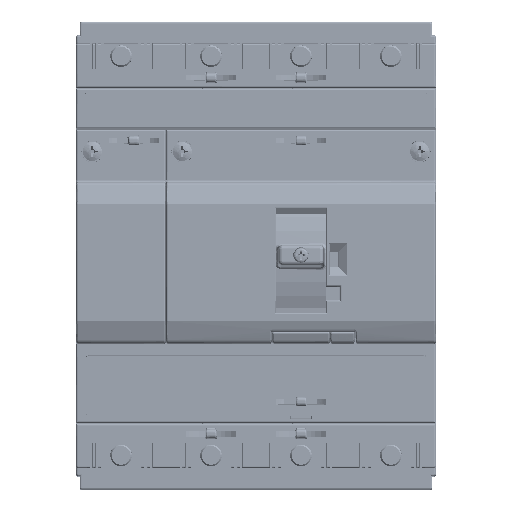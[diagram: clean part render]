
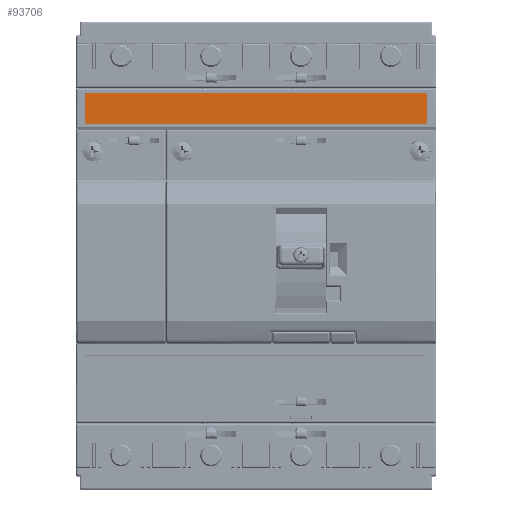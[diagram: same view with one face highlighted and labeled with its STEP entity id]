
A CAD part, top view. The second image highlights one B-rep face of the part: STEP entity #93706.
In plain terms, the highlighted planar face has unit normal (0, 0, 1).
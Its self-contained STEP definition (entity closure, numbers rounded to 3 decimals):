
#32029 = FACE_OUTER_BOUND ( 'NONE', #268607, .T. ) ;
#32032 = PLANE ( 'NONE',  #41921 ) ;
#32070 = CARTESIAN_POINT ( 'NONE',  ( -34.7, 44.9, 69.7 ) ) ;
#32073 = DIRECTION ( 'NONE',  ( 0., 0., -1. ) ) ;
#32075 = DIRECTION ( 'NONE',  ( -1., 0., 0. ) ) ;
#32903 = CARTESIAN_POINT ( 'NONE',  ( -60., 36.96, 69.7 ) ) ;
#32907 = CARTESIAN_POINT ( 'NONE',  ( -60., 37., 69.7 ) ) ;
#32950 = CARTESIAN_POINT ( 'NONE',  ( 35., 37., 69.7 ) ) ;
#32955 = LINE ( 'NONE', #32989, #260381 ) ;
#32960 = CARTESIAN_POINT ( 'NONE',  ( 35., 36.921, 69.7 ) ) ;
#32965 = CARTESIAN_POINT ( 'NONE',  ( -59.992, 36.922, 69.7 ) ) ;
#32969 = CARTESIAN_POINT ( 'NONE',  ( -59.964, 36.852, 69.7 ) ) ;
#32973 = CARTESIAN_POINT ( 'NONE',  ( -59.941, 36.817, 69.7 ) ) ;
#32977 = CARTESIAN_POINT ( 'NONE',  ( -59.854, 36.73, 69.7 ) ) ;
#32981 = CARTESIAN_POINT ( 'NONE',  ( -59.783, 36.701, 69.7 ) ) ;
#32986 = CARTESIAN_POINT ( 'NONE',  ( -59.7, 36.7, 69.7 ) ) ;
#32989 = CARTESIAN_POINT ( 'NONE',  ( -34.7, 36.7, 69.7 ) ) ;
#32999 = DIRECTION ( 'NONE',  ( 1., 0., 0. ) ) ;
#33003 = CARTESIAN_POINT ( 'NONE',  ( 35., 44.9, 69.7 ) ) ;
#33006 = LINE ( 'NONE', #33034, #260403 ) ;
#33010 = CARTESIAN_POINT ( 'NONE',  ( 35., 44.94, 69.7 ) ) ;
#33015 = CARTESIAN_POINT ( 'NONE',  ( 34.968, 36.843, 69.7 ) ) ;
#33020 = CARTESIAN_POINT ( 'NONE',  ( 34.857, 36.732, 69.7 ) ) ;
#33024 = CARTESIAN_POINT ( 'NONE',  ( 34.779, 36.7, 69.7 ) ) ;
#33029 = CARTESIAN_POINT ( 'NONE',  ( 34.7, 36.7, 69.7 ) ) ;
#33034 = CARTESIAN_POINT ( 'NONE',  ( 35., 44.9, 69.7 ) ) ;
#33046 = DIRECTION ( 'NONE',  ( 0., 1., 0. ) ) ;
#33055 = CARTESIAN_POINT ( 'NONE',  ( -59.74, 45.2, 69.7 ) ) ;
#33059 = CARTESIAN_POINT ( 'NONE',  ( -59.7, 45.2, 69.7 ) ) ;
#33063 = CARTESIAN_POINT ( 'NONE',  ( 34.992, 44.978, 69.7 ) ) ;
#33067 = CARTESIAN_POINT ( 'NONE',  ( 34.964, 45.048, 69.7 ) ) ;
#33068 = CARTESIAN_POINT ( 'NONE',  ( 34.941, 45.083, 69.7 ) ) ;
#33071 = CARTESIAN_POINT ( 'NONE',  ( 34.854, 45.17, 69.7 ) ) ;
#33075 = CARTESIAN_POINT ( 'NONE',  ( 34.783, 45.199, 69.7 ) ) ;
#33080 = CARTESIAN_POINT ( 'NONE',  ( 34.7, 45.2, 69.7 ) ) ;
#33082 = LINE ( 'NONE', #33087, #260407 ) ;
#33087 = CARTESIAN_POINT ( 'NONE',  ( -34.7, 45.2, 69.7 ) ) ;
#33091 = DIRECTION ( 'NONE',  ( -1., 0., 0. ) ) ;
#33106 = CARTESIAN_POINT ( 'NONE',  ( -59.778, 45.192, 69.7 ) ) ;
#33110 = CARTESIAN_POINT ( 'NONE',  ( -59.848, 45.164, 69.7 ) ) ;
#33115 = CARTESIAN_POINT ( 'NONE',  ( -59.883, 45.141, 69.7 ) ) ;
#33120 = CARTESIAN_POINT ( 'NONE',  ( -59.97, 45.054, 69.7 ) ) ;
#33125 = CARTESIAN_POINT ( 'NONE',  ( -59.999, 44.983, 69.7 ) ) ;
#33129 = CARTESIAN_POINT ( 'NONE',  ( -60., 44.9, 69.7 ) ) ;
#33135 = LINE ( 'NONE', #33143, #260410 ) ;
#33143 = CARTESIAN_POINT ( 'NONE',  ( -60., 44.9, 69.7 ) ) ;
#33146 = DIRECTION ( 'NONE',  ( 0., -1., 0. ) ) ;
#41921 = AXIS2_PLACEMENT_3D ( 'NONE', #32070, #32073, #32075 ) ;
#91088 = B_SPLINE_CURVE_WITH_KNOTS ( 'NONE', 3,
 ( #32907, #32903, #32965, #32969, #32973, #32977, #32981, #32986 ),
 .UNSPECIFIED., .F., .F.,
 ( 4, 2, 2, 4 ),
 ( 0., 0.25, 0.5, 1. ),
 .UNSPECIFIED. ) ;
#91096 = B_SPLINE_CURVE_WITH_KNOTS ( 'NONE', 3,
 ( #32950, #32960, #33015, #33020, #33024, #33029 ),
 .UNSPECIFIED., .F., .F.,
 ( 4, 2, 4 ),
 ( 0., 0.5, 1. ),
 .UNSPECIFIED. ) ;
#91102 = B_SPLINE_CURVE_WITH_KNOTS ( 'NONE', 3,
 ( #33003, #33010, #33063, #33067, #33068, #33071, #33075, #33080 ),
 .UNSPECIFIED., .F., .F.,
 ( 4, 2, 2, 4 ),
 ( 0., 0.25, 0.5, 1. ),
 .UNSPECIFIED. ) ;
#91109 = B_SPLINE_CURVE_WITH_KNOTS ( 'NONE', 3,
 ( #33059, #33055, #33106, #33110, #33115, #33120, #33125, #33129 ),
 .UNSPECIFIED., .F., .F.,
 ( 4, 2, 2, 4 ),
 ( 0., 0.25, 0.5, 1. ),
 .UNSPECIFIED. ) ;
#93706 = ADVANCED_FACE ( 'NONE', ( #32029 ), #32032, .F. ) ;
#176461 = VERTEX_POINT ( 'NONE', #212196 ) ;
#176479 = VERTEX_POINT ( 'NONE', #212362 ) ;
#176492 = VERTEX_POINT ( 'NONE', #212518 ) ;
#176496 = VERTEX_POINT ( 'NONE', #212542 ) ;
#176507 = VERTEX_POINT ( 'NONE', #212580 ) ;
#176514 = VERTEX_POINT ( 'NONE', #212601 ) ;
#176518 = VERTEX_POINT ( 'NONE', #212623 ) ;
#176525 = VERTEX_POINT ( 'NONE', #212669 ) ;
#212196 = CARTESIAN_POINT ( 'NONE',  ( -59.7, 36.7, 69.7 ) ) ;
#212362 = CARTESIAN_POINT ( 'NONE',  ( -60., 37., 69.7 ) ) ;
#212518 = CARTESIAN_POINT ( 'NONE',  ( 35., 37., 69.7 ) ) ;
#212542 = CARTESIAN_POINT ( 'NONE',  ( 34.7, 36.7, 69.7 ) ) ;
#212580 = CARTESIAN_POINT ( 'NONE',  ( 35., 44.9, 69.7 ) ) ;
#212601 = CARTESIAN_POINT ( 'NONE',  ( 34.7, 45.2, 69.7 ) ) ;
#212623 = CARTESIAN_POINT ( 'NONE',  ( -59.7, 45.2, 69.7 ) ) ;
#212669 = CARTESIAN_POINT ( 'NONE',  ( -60., 44.9, 69.7 ) ) ;
#239475 = ORIENTED_EDGE ( 'NONE', *, *, #323521, .T. ) ;
#242727 = ORIENTED_EDGE ( 'NONE', *, *, #323527, .T. ) ;
#242867 = ORIENTED_EDGE ( 'NONE', *, *, #323528, .T. ) ;
#242884 = ORIENTED_EDGE ( 'NONE', *, *, #323529, .T. ) ;
#243955 = ORIENTED_EDGE ( 'NONE', *, *, #323524, .F. ) ;
#244932 = ORIENTED_EDGE ( 'NONE', *, *, #323526, .T. ) ;
#245596 = ORIENTED_EDGE ( 'NONE', *, *, #323525, .T. ) ;
#246167 = ORIENTED_EDGE ( 'NONE', *, *, #323522, .T. ) ;
#260381 = VECTOR ( 'NONE', #32999, 1000. ) ;
#260403 = VECTOR ( 'NONE', #33046, 1000. ) ;
#260407 = VECTOR ( 'NONE', #33091, 1000. ) ;
#260410 = VECTOR ( 'NONE', #33146, 1000. ) ;
#268607 = EDGE_LOOP ( 'NONE', ( #239475, #246167, #243955, #245596, #244932, #242727, #242867, #242884 ) ) ;
#323521 = EDGE_CURVE ( 'NONE', #176479, #176461, #91088, .T. ) ;
#323522 = EDGE_CURVE ( 'NONE', #176461, #176496, #32955, .T. ) ;
#323524 = EDGE_CURVE ( 'NONE', #176492, #176496, #91096, .T. ) ;
#323525 = EDGE_CURVE ( 'NONE', #176492, #176507, #33006, .T. ) ;
#323526 = EDGE_CURVE ( 'NONE', #176507, #176514, #91102, .T. ) ;
#323527 = EDGE_CURVE ( 'NONE', #176514, #176518, #33082, .T. ) ;
#323528 = EDGE_CURVE ( 'NONE', #176518, #176525, #91109, .T. ) ;
#323529 = EDGE_CURVE ( 'NONE', #176525, #176479, #33135, .T. ) ;
